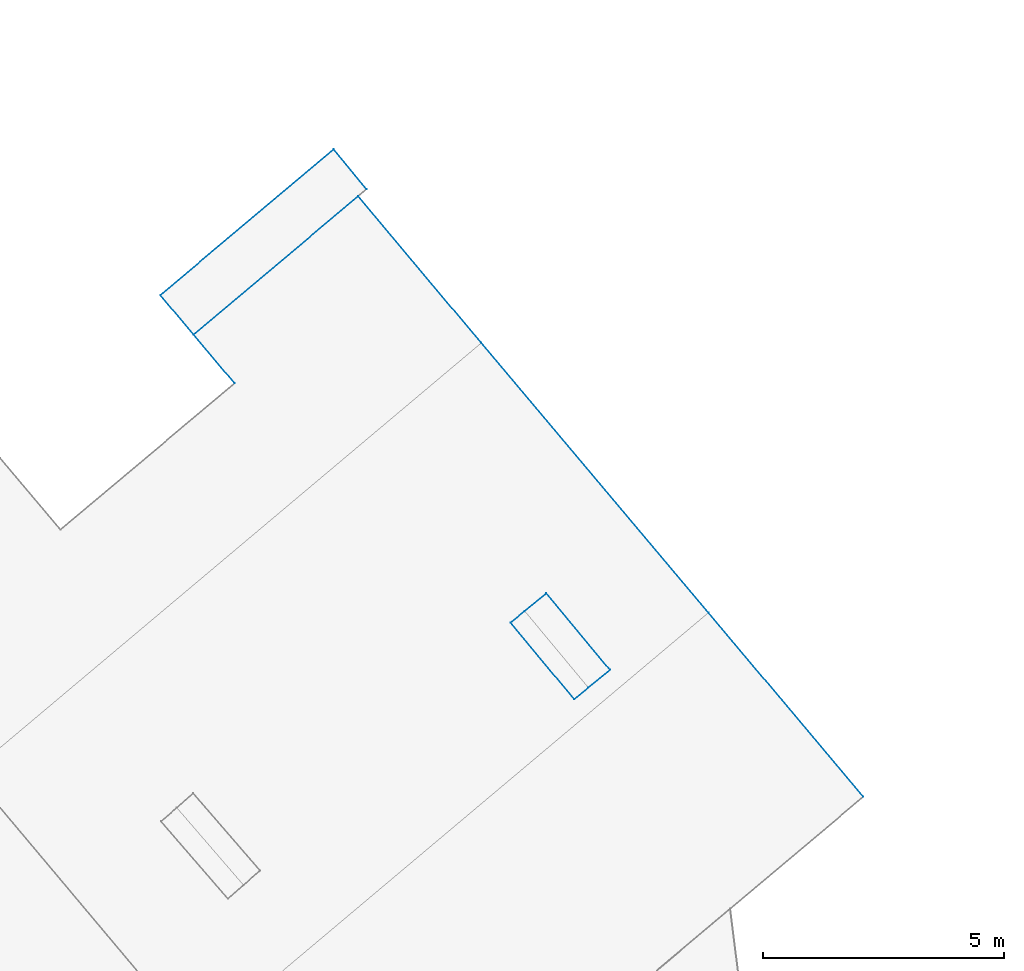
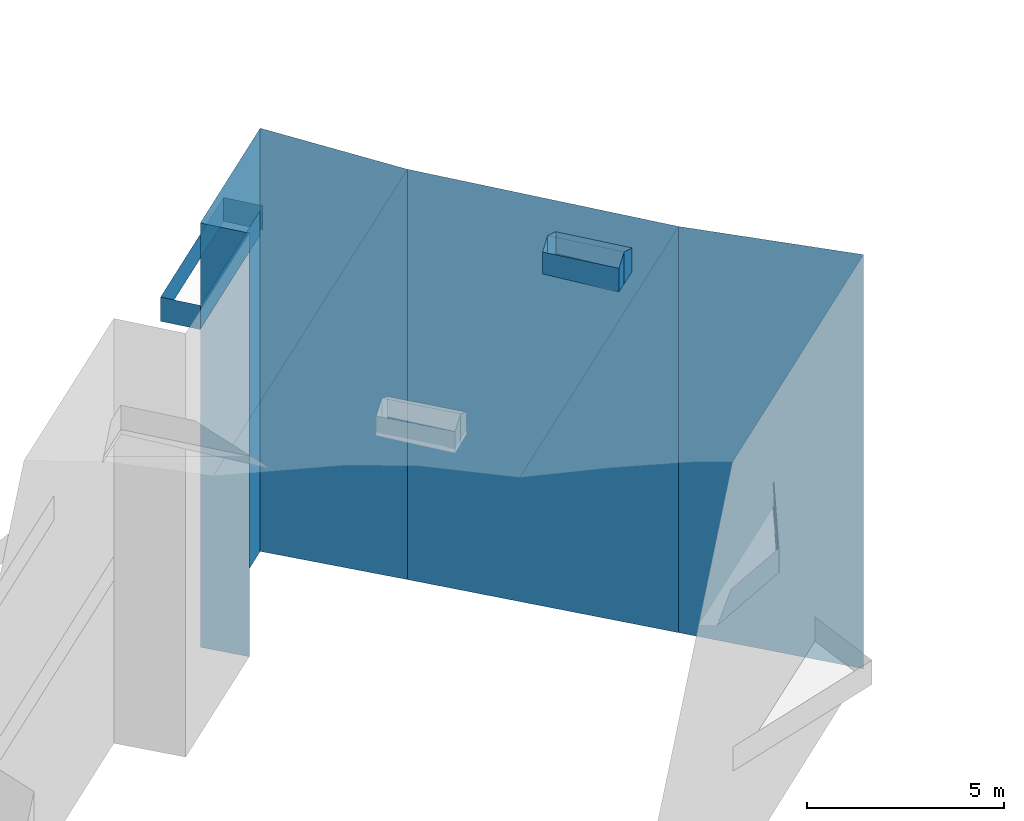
# Not in any storey, part 48 of 136: 19 walls.
"""IFC2X3 building model written with IfcOpenShell, lengths in metres."""

import ifcopenshell
import ifcopenshell.guid

model = None  # the IFC model being written
_history = None  # IfcOwnerHistory: only IFC2X3 demands one
_inside = {}  # id of a spatial element -> (the spatial element, [elements in it])
_under = {}  # id of a project, library or spatial element -> (it, [spatial elements below it])
_declared = {}  # id of a project -> (the project, [libraries it declares])
_typed = {}  # id of a type object -> (the type object, [elements of that type])
_made_of = {}  # id of a material, layer set ... -> (it, [elements and type objects made of it])


def new_model(schema):
    """Start an empty IFC model of exactly this schema.

    Asked for "IFC4X3", IfcOpenShell would pick the latest addendum, in which some entities
    have other attributes; the version numbers below select the first issue.
    IFC2X3 requires an IfcOwnerHistory on every rooted entity: one is made here for all.
    """
    global model, _history
    if schema == "IFC4X3":
        model = ifcopenshell.file(schema_version=(4, 3, 0, 0))
    else:
        model = ifcopenshell.file(schema=schema)
    _inside.clear()
    _under.clear()
    _declared.clear()
    _typed.clear()
    _made_of.clear()
    _history = None
    if model.schema == "IFC2X3":
        org = make("IfcOrganization", Name="unknown")
        user = make(
            "IfcPersonAndOrganization",
            ThePerson=make("IfcPerson", FamilyName="unknown"),
            TheOrganization=org,
        )
        app = make(
            "IfcApplication",
            ApplicationDeveloper=org,
            Version="unknown",
            ApplicationFullName="unknown",
            ApplicationIdentifier="unknown",
        )
        _history = make(
            "IfcOwnerHistory",
            OwningUser=user,
            OwningApplication=app,
            ChangeAction="ADDED",
            CreationDate=0,
        )
    return model


def make(cls, **values):
    """One entity of the class cls with the attributes given. An attribute that is None is left unset."""
    return model.create_entity(
        cls, **{name: value for name, value in values.items() if value is not None}
    )


def entity(cls, *values):
    """Any entity or typed value of the class cls, its attributes in the order of the schema. None: left unset."""
    e = model.create_entity(cls)
    for i, value in enumerate(values):
        if value is not None:
            e[i] = value
    return e


def rooted(cls, **values):
    """An entity with a GlobalId (a new one), such as an element, a storey or a relation."""
    return make(cls, GlobalId=ifcopenshell.guid.new(), OwnerHistory=_history, **values)


def si_unit(unit_type, name, prefix=None):
    """IfcSIUnit, for example si_unit("LENGTHUNIT", "METRE", prefix="MILLI")."""
    return make("IfcSIUnit", UnitType=unit_type, Prefix=prefix, Name=name)


def converted_unit(unit_type, name, factor, base, dimensions=None, offset=None):
    """IfcConversionBasedUnit, such as the inch: factor (a typed value) times the base unit."""
    return make(
        "IfcConversionBasedUnit"
        if offset is None
        else "IfcConversionBasedUnitWithOffset",
        ConversionOffset=offset,
        Dimensions=None
        if dimensions is None
        else entity("IfcDimensionalExponents", *dimensions),
        UnitType=unit_type,
        Name=name,
        ConversionFactor=make(
            "IfcMeasureWithUnit", ValueComponent=factor, UnitComponent=base
        ),
    )


def assignment(units):
    """IfcUnitAssignment: the units of a project."""
    return None if units is None else make("IfcUnitAssignment", Units=units)


def point(xyz):
    """IfcCartesianPoint."""
    return None if xyz is None else make("IfcCartesianPoint", Coordinates=xyz)


def direction(xyz):
    """IfcDirection."""
    return None if xyz is None else make("IfcDirection", DirectionRatios=xyz)


def frame(location, z_axis=None, x_axis=None):
    """IfcAxis2Placement3D, a coordinate frame: its origin and axes. An axis left out is left unset."""
    return make(
        "IfcAxis2Placement3D",
        Location=point(location),
        Axis=direction(z_axis),
        RefDirection=direction(x_axis),
    )


def origin():
    """The frame at (0, 0, 0) with its axes left unset."""
    return frame((0.0, 0.0, 0.0))


def place(relative_to, where):
    """IfcLocalPlacement: puts the frame where relative to a parent placement (None: the world)."""
    return make(
        "IfcLocalPlacement", PlacementRelTo=relative_to, RelativePlacement=where
    )


def context(
    kind, dimensions, precision=None, world=None, true_north=None, identifier=None
):
    """IfcGeometricRepresentationContext, for example the 3D "Model" context."""
    return make(
        "IfcGeometricRepresentationContext",
        ContextIdentifier=identifier,
        ContextType=kind,
        CoordinateSpaceDimension=dimensions,
        Precision=precision,
        WorldCoordinateSystem=world,
        TrueNorth=true_north,
    )


def subcontext(parent, identifier, kind, view, scale=None):
    """IfcGeometricRepresentationSubContext, for example "Body" below "Model"."""
    return make(
        "IfcGeometricRepresentationSubContext",
        ContextIdentifier=identifier,
        ContextType=kind,
        ParentContext=parent,
        TargetScale=scale,
        TargetView=view,
    )


def project(units=None, contexts=None):
    """IfcProject with its units and contexts."""
    return rooted(
        "IfcProject",
        Name="project",
        RepresentationContexts=contexts,
        UnitsInContext=assignment(units),
    )


def spatial(cls, under=None, at=None, **own):
    """A site, building, storey or space (cls), placed at a placement, below another one or the project."""
    s = rooted(cls, ObjectPlacement=at, **own)
    if under is not None:
        _under.setdefault(under.id(), (under, []))[1].append(s)
    return s


def faces_of(points, faces, orient=None, outer=None):
    """IfcFace entities. A face is a list of loops; a loop is a list of indices into points, from 0.

    orient and outer hold one flag for each loop. By default every Orientation is true, the
    first loop of a face is its IfcFaceOuterBound and the others are IfcFaceBound.
    """
    made = []
    for i, loops in enumerate(faces):
        bounds = []
        for j, loop in enumerate(loops):
            is_outer = j == 0 if outer is None else outer[i][j]
            bounds.append(
                make(
                    "IfcFaceOuterBound" if is_outer else "IfcFaceBound",
                    Bound=make("IfcPolyLoop", Polygon=[points[k] for k in loop]),
                    Orientation=True if orient is None else orient[i][j],
                )
            )
        made.append(make("IfcFace", Bounds=bounds))
    return made


def face_set(faces, orient=None, outer=None):
    """The faces of one IfcConnectedFaceSet. surface_model builds it on its shared points."""
    return ("IfcConnectedFaceSet", faces, orient, outer)


def surface_model(cls, points, shells):
    """IfcFaceBasedSurfaceModel or IfcShellBasedSurfaceModel (cls): surfaces that need not close."""
    shared = [point(p) for p in points]
    made = [make(c, CfsFaces=faces_of(shared, fs, o, b)) for c, fs, o, b in shells]
    if cls == "IfcFaceBasedSurfaceModel":
        return make(cls, FbsmFaces=made)
    return make(cls, SbsmBoundary=made)


def shape(context_of_items, identifier, shape_type, items):
    """IfcShapeRepresentation: the items that make up one representation, for example the "Body"."""
    return make(
        "IfcShapeRepresentation",
        ContextOfItems=context_of_items,
        RepresentationIdentifier=identifier,
        RepresentationType=shape_type,
        Items=items,
    )


def made_of(thing, what):
    """Note that an element or type object is made of a material, layer set ...; save() writes the relation."""
    if what is not None:
        _made_of.setdefault(what.id(), (what, []))[1].append(thing)
    return thing


def element(
    cls,
    number,
    at=None,
    inside=None,
    cuts=None,
    type_object=None,
    material=None,
    context=None,
    identifier="Body",
    shape_type=None,
    held_by="IfcProductDefinitionShape",
    body=None,
    shapes=None,
    **own,
):
    """One element of the class cls, such as IfcWall. Its Tag is "e" and its number.

    at: its placement. inside: the storey or other place that contains it. cuts: it is an
    opening in that element (IfcRelVoidsElement). A single representation is given by context,
    identifier, shape_type and body (its items); several are given by shapes. held_by: the class
    of the entity that holds the representations. save() writes the other relations.
    """
    e = rooted(cls, Tag="e%d" % number, ObjectPlacement=at, **own)
    if body is not None:
        shapes = [shape(context, identifier, shape_type, body)]
    if shapes is not None:
        e.Representation = make(held_by, Representations=shapes)
    if inside is not None:
        _inside.setdefault(inside.id(), (inside, []))[1].append(e)
    if cuts is not None:
        rooted(
            "IfcRelVoidsElement", RelatingBuildingElement=cuts, RelatedOpeningElement=e
        )
    if type_object is not None:
        _typed.setdefault(type_object.id(), (type_object, []))[1].append(e)
    return made_of(e, material)


def aggregate(whole, parts):
    """IfcRelAggregates: a whole, such as a stair, and the parts it consists of."""
    return rooted("IfcRelAggregates", RelatingObject=whole, RelatedObjects=parts)


def save(model, path):
    """Write the relations noted so far, then the file.

    IfcRelAggregates (storeys below a building ...), IfcRelContainedInSpatialStructure (elements
    in a storey), IfcRelDefinesByType, IfcRelAssociatesMaterial and IfcRelDeclares: one each for
    every whole, place, type object, material and project.
    """
    for whole, parts in _under.values():
        aggregate(whole, parts)
    for where, things in _inside.values():
        rooted(
            "IfcRelContainedInSpatialStructure",
            RelatedElements=things,
            RelatingStructure=where,
        )
    for kind, things in _typed.values():
        rooted("IfcRelDefinesByType", RelatedObjects=things, RelatingType=kind)
    for what, things in _made_of.values():
        rooted("IfcRelAssociatesMaterial", RelatedObjects=things, RelatingMaterial=what)
    for by, libraries in _declared.values():
        rooted("IfcRelDeclares", RelatingContext=by, RelatedDefinitions=libraries)
    model.write(path)


model = new_model("IFC2X3")

# Units and contexts
model_context = context("Model", 3, precision=1e-05, world=origin())
body_context = subcontext(model_context, "Body", "Model", "MODEL_VIEW")
ifc_project = project(units=[converted_unit("PLANEANGLEUNIT", "DEGREE", entity("IfcRatioMeasure", 0.0174532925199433), si_unit("PLANEANGLEUNIT", "RADIAN"), dimensions=[0, 0, 0, 0, 0, 0, 0]), si_unit("AREAUNIT", "SQUARE_METRE"), si_unit("LENGTHUNIT", "METRE")], contexts=[model_context])

# Site, building
site_placement = place(None, origin())
site = spatial("IfcSite", under=ifc_project, at=site_placement, Name="_site", CompositionType="ELEMENT")
building_placement = place(site_placement, origin())
building = spatial("IfcBuilding", under=site, at=building_placement, Name="_building", CompositionType="ELEMENT")

# Walls
wall_1_placement = place(building_placement, origin())
element("IfcWall", 1, at=wall_1_placement, inside=building, Name="Wall", context=body_context, shape_type="SurfaceModel", body=[
    surface_model("IfcFaceBasedSurfaceModel", [(63.95, 74.28, 51.65), (62.63, 75.87, 51.65), (62.63, 75.87, 50.97), (63.95, 74.28, 50.913)], [face_set([[[0, 1, 2, 3]]])]),
])
wall_2_placement = place(building_placement, origin())
element("IfcWall", 2, at=wall_2_placement, inside=building, Name="Wall", context=body_context, shape_type="SurfaceModel", body=[
    surface_model("IfcFaceBasedSurfaceModel", [(62.63, 75.87, 51.65), (62.92, 76.11, 51.91), (62.92, 76.11, 50.97), (62.63, 75.87, 50.97)], [face_set([[[0, 1, 2, 3]]])]),
])
wall_3_placement = place(building_placement, origin())
element("IfcWall", 3, at=wall_3_placement, inside=building, Name="Wall", context=body_context, shape_type="SurfaceModel", body=[
    surface_model("IfcFaceBasedSurfaceModel", [(58.96, 85.68, 47.93), (59.64, 84.86, 47.93), (59.64, 84.86, 48.68), (58.96, 85.68, 48.68)], [face_set([[[0, 1, 2, 3]]])]),
])
for number, where, name in (
    (4, (0.0, 0.0, 0.0), "Wall"),
    (5, (0.0, 0.0, 0.0), "Wall"),
):
    element("IfcWall", number, at=place(building_placement, frame(where)), inside=building, Name=name, context=body_context, shape_type="SurfaceModel", body=[
        surface_model("IfcFaceBasedSurfaceModel", [(55.37, 82.66, 47.93), (58.96, 85.68, 47.93), (58.96, 85.68, 48.68), (55.37, 82.66, 48.68)], [face_set([[[0, 1, 2, 3]]])]),
    ])
wall_4_placement = place(building_placement, origin())
element("IfcWall", 6, at=wall_4_placement, inside=building, Name="Wall", context=body_context, shape_type="SurfaceModel", body=[
    surface_model("IfcFaceBasedSurfaceModel", [(56.06, 81.84, 47.93), (55.37, 82.66, 47.93), (55.37, 82.66, 48.68), (56.06, 81.84, 48.68)], [face_set([[[0, 1, 2, 3]]])]),
])
wall_5_placement = place(building_placement, origin())
element("IfcWall", 7, at=wall_5_placement, inside=building, Name="Wall", context=body_context, shape_type="SurfaceModel", body=[
    surface_model("IfcFaceBasedSurfaceModel", [(59.47, 84.71, 47.93), (56.06, 81.84, 47.93), (56.06, 81.84, 48.68), (59.47, 84.71, 48.68)], [face_set([[[0, 1, 2, 3]]])]),
])
wall_6_placement = place(building_placement, origin())
element("IfcWall", 8, at=wall_6_placement, inside=building, Name="Wall", context=body_context, shape_type="SurfaceModel", body=[
    surface_model("IfcFaceBasedSurfaceModel", [(58.96, 85.68, 47.93), (59.64, 84.86, 47.93), (59.64, 84.86, 48.68), (58.96, 85.68, 48.68)], [face_set([[[0, 1, 2, 3]]])]),
])
wall_7_placement = place(building_placement, origin())
element("IfcWall", 9, at=wall_7_placement, inside=building, Name="Wall", context=body_context, shape_type="SurfaceModel", body=[
    surface_model("IfcFaceBasedSurfaceModel", [(59.47, 84.71, 47.93), (56.06, 81.84, 47.93), (56.06, 81.84, 48.68), (59.47, 84.71, 48.68)], [face_set([[[0, 1, 2, 3]]])]),
])
wall_8_placement = place(building_placement, origin())
element("IfcWall", 10, at=wall_8_placement, inside=building, Name="Wall", context=body_context, shape_type="SurfaceModel", body=[
    surface_model("IfcFaceBasedSurfaceModel", [(64.69, 74.89, 51.65), (64.24, 74.521, 51.91), (64.24, 74.521, 50.913), (64.69, 74.89, 50.913)], [face_set([[[0, 1, 2, 3]]])]),
])
wall_9_placement = place(building_placement, origin())
element("IfcWall", 11, at=wall_9_placement, inside=building, Name="Wall", context=body_context, shape_type="SurfaceModel", body=[
    surface_model("IfcFaceBasedSurfaceModel", [(63.37, 76.48, 51.65), (64.69, 74.89, 51.65), (64.69, 74.89, 50.913), (63.37, 76.48, 50.971)], [face_set([[[0, 1, 2, 3]]])]),
])
wall_10_placement = place(building_placement, origin())
element("IfcWall", 12, at=wall_10_placement, inside=building, Name="Wall", context=body_context, shape_type="SurfaceModel", body=[
    surface_model("IfcFaceBasedSurfaceModel", [(62.92, 76.11, 51.91), (63.37, 76.48, 51.65), (63.37, 76.48, 50.971), (62.92, 76.11, 50.97)], [face_set([[[0, 1, 2, 3]]])]),
])
wall_11_placement = place(building_placement, origin())
element("IfcWall", 13, at=wall_11_placement, inside=building, Name="Wall", context=body_context, shape_type="SurfaceModel", body=[
    surface_model("IfcFaceBasedSurfaceModel", [(56.06, 81.84, 47.93), (55.37, 82.66, 47.93), (55.37, 82.66, 48.68), (56.06, 81.84, 48.68)], [face_set([[[0, 1, 2, 3]]])]),
])
wall_12_placement = place(building_placement, origin())
element("IfcWall", 14, at=wall_12_placement, inside=building, Name="Wall", context=body_context, shape_type="SurfaceModel", body=[
    surface_model("IfcFaceBasedSurfaceModel", [(64.24, 74.521, 51.91), (63.95, 74.28, 51.65), (63.95, 74.28, 50.913), (64.24, 74.521, 50.913)], [face_set([[[0, 1, 2, 3]]])]),
])
wall_13_placement = place(building_placement, origin())
element("IfcWall", 15, at=wall_13_placement, inside=building, Name="Wall", context=body_context, shape_type="SurfaceModel", body=[
    surface_model("IfcFaceBasedSurfaceModel", [(56.06, 81.84, 51.23), (59.47, 84.71, 51.23), (59.47, 84.71, 38.131), (56.06, 81.84, 38.098)], [face_set([[[0, 1, 2, 3]]])]),
])
wall_14_placement = place(building_placement, origin())
element("IfcWall", 16, at=wall_14_placement, inside=building, Name="Wall", context=body_context, shape_type="SurfaceModel", body=[
    surface_model("IfcFaceBasedSurfaceModel", [(56.91, 80.83, 51.23), (56.06, 81.84, 51.23), (56.06, 81.84, 38.098), (56.91, 80.83, 38.119)], [face_set([[[0, 1, 2, 3]]])]),
])
wall_15_placement = place(building_placement, origin())
element("IfcWall", 17, at=wall_15_placement, inside=building, Name="Wall", context=body_context, shape_type="SurfaceModel", body=[
    surface_model("IfcFaceBasedSurfaceModel", [(62.02, 81.67, 50.91), (66.73, 76.08, 50.88), (66.73, 76.08, 38.307), (62.02, 81.67, 38.209)], [face_set([[[0, 1, 2, 3]]])]),
])
wall_16_placement = place(building_placement, origin())
element("IfcWall", 18, at=wall_16_placement, inside=building, Name="Wall", context=body_context, shape_type="SurfaceModel", body=[
    surface_model("IfcFaceBasedSurfaceModel", [(66.73, 76.08, 50.88), (69.94, 72.26, 51.2), (69.94, 72.26, 38.382), (66.73, 76.08, 38.307)], [face_set([[[0, 1, 2, 3]]])]),
])
wall_17_placement = place(building_placement, origin())
element("IfcWall", 19, at=wall_17_placement, inside=building, Name="Wall", context=body_context, shape_type="SurfaceModel", body=[
    surface_model("IfcFaceBasedSurfaceModel", [(59.47, 84.71, 51.23), (62.02, 81.67, 50.91), (62.02, 81.67, 38.209), (59.47, 84.71, 38.131)], [face_set([[[0, 1, 2, 3]]])]),
])

save(model, "model.ifc")
